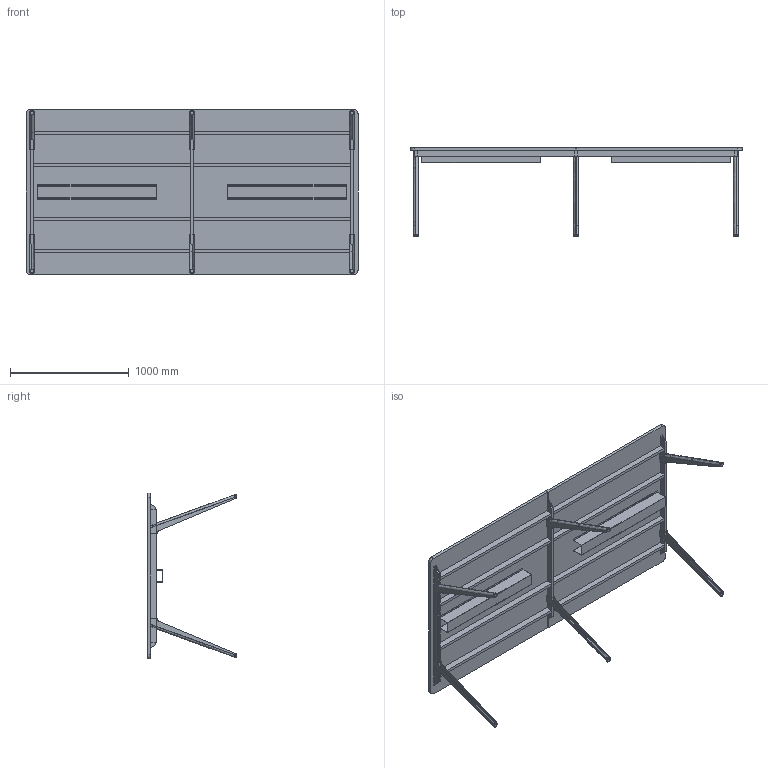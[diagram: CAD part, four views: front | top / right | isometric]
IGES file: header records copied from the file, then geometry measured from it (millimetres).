
Start section: SolidWorks IGES file using analytic representation for surfaces
Global section: file name: C:\Users\simone.cerana\OneDrive - Gruppo Tecno\Desktop\CHINA\DISEGNI DI SERIE\ASSIEMI LISTINO\HORIZON LISTINO\FULL OPTIONAL\HO2814MF.IGS; native system: SolidWorks 2024; preprocessor: SolidWorks 2024; author: simone.cerana; date: 260512.160614; units: millimetre
Bounding box: 2801 x 750.58 x 1400 mm (x, y, z)
Surface area: 11937044.8 mm2 (no closed solid volume)
Topology: 0 solids, 0 shells, 518 faces, 6250 edges, 6250 vertices
Faces by surface type: bspline 372, revolution 146
